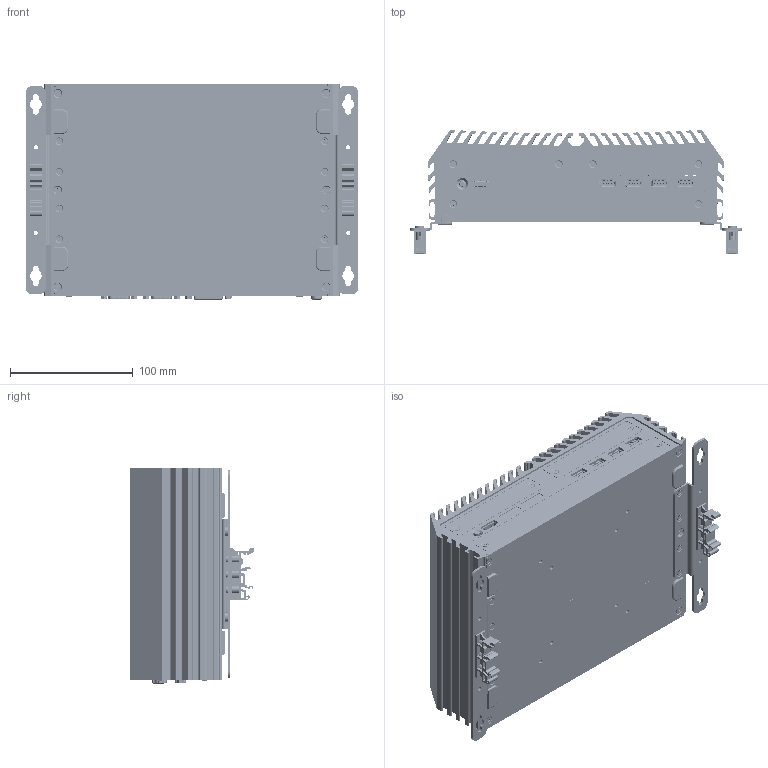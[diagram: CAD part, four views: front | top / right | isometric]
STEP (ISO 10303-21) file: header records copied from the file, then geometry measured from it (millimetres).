
FILE_DESCRIPTION (( 'STEP AP203' ), '1' );
FILE_NAME ('DX-1200+Wall Mount+Din Rail_20230703.STEP', '2023-07-03T03:24:22', ( '' ), ( '' ), 'SwSTEP 2.0', 'SolidWorks 2014', '' );
FILE_SCHEMA (( 'CONFIG_CONTROL_DESIGN' ));
Length unit declared in the file: millimetre
Products named in the file (31): Top Cover(M1-408100006300); Symbol_Panel(M0-ZZZZ5C3003); Main Board; Audio Jack_雙層_T-A032134001(23-D0262300090); Bottom Cover(M1-408100011100); Wall Mount Bracket(M1-208100051200); Copper Stud_S38400B25N01(M3-COSD6L00000); D-SUB 9_雙層_D20H1P1PA112A111N2(23-D0101100181); Front Bezel(M1-408110024100); din rail-塑膠-町洋(M5-DINRZ790000); F頭_M3x5(T10)(120)_黑(M3-N103052230); Terminal Block_ECH350R-04P(23-D0341500040); Rear Bezel(M1-408100031200); din rail-塑膠-町洋(M5-DINRZ790000)-Screw-沙拉-90-十字-M3X10.5自攻_M3*4; F頭_M3X8(T10)(90)_黑(M3-N103082260); DVI-1-H-RISE(23-D0092300293); Front Matching Bezel(CNC)(M1-408100081220); DX-1200+Wall Mount+Din Rail_20230703; F頭_M3x18(T10)(120)+溝槽_黑(M3-1103182270); RJ45+USB3.0x2_三層_JFM38U1B_B313_4F(23-D0202300320); Small Matching Bezel(M1-408100081200); P頭_M5x8(十字)(太陽華司)(M3-SCREAB00002) ; DC_IN1_5EHDRM-03P_8(23-D0341500030); DP1_Displayport_(23-D0242300200); Hole_Plug,MHD-7(M4-RUBR0100000); USB3.0_SMT_122-0921NA0504(23-S0142300090); PWR_BTN_TC003; Top Cover; Rubber Foot(M4-RUFT0100001); WHDM-19FLBSDR; Terminal Block_ECH350R-02P(23-D0341500020)
Assembly tree (80 placements, depth 3):
  DX-1200+Wall Mount+Din Rail_20230703
    Top Cover(M1-408100006300)
      Top Cover
    Bottom Cover(M1-408100011100)
    Front Bezel(M1-408110024100)
    Rear Bezel(M1-408100031200)
    Front Matching Bezel(CNC)(M1-408100081220)
    Small Matching Bezel(M1-408100081200)  x4
    Main Board
      DP1_Displayport_(23-D0242300200)
      PWR_BTN_TC003
      Terminal Block_ECH350R-02P(23-D0341500020)
      Audio Jack_雙層_T-A032134001(23-D0262300090)
      D-SUB 9_雙層_D20H1P1PA112A111N2(23-D0101100181)  x2
      Terminal Block_ECH350R-04P(23-D0341500040)
      DVI-1-H-RISE(23-D0092300293)
      RJ45+USB3.0x2_三層_JFM38U1B_B313_4F(23-D0202300320)  x2
      DC_IN1_5EHDRM-03P_8(23-D0341500030)
      USB3.0_SMT_122-0921NA0504(23-S0142300090)  x4
      WHDM-19FLBSDR
    Copper Stud_S38400B25N01(M3-COSD6L00000)  x10
    F頭_M3x5(T10)(120)_黑(M3-N103052230)  x16
    F頭_M3X8(T10)(90)_黑(M3-N103082260)  x6
    F頭_M3x18(T10)(120)+溝槽_黑(M3-1103182270)  x2
    P頭_M5x8(十字)(太陽華司)(M3-SCREAB00002) 
    Hole_Plug,MHD-7(M4-RUBR0100000)  x3
    Rubber Foot(M4-RUFT0100001)  x4
    Symbol_Panel(M0-ZZZZ5C3003)
    Wall Mount Bracket(M1-208100051200)  x2
    din rail-塑膠-町洋(M5-DINRZ790000)  x2
    din rail-塑膠-町洋(M5-DINRZ790000)-Screw-沙拉-90-十字-M3X10.5自攻_M3*4  x6
Bounding box: 271 x 101.32 x 176 mm (x, y, z)
Volume: 810129.7 mm3; surface area: 539623.2 mm2
Topology: 117 solids, 288 shells, 26581 faces, 74632 edges, 48261 vertices
Faces by surface type: plane 16407, cylinder 7887, bspline 1506, cone 571, torus 207, sphere 3
Entity records: 573839 total; most frequent: CARTESIAN_POINT 164200, ORIENTED_EDGE 89690, DIRECTION 76599, EDGE_CURVE 44958, LINE 32061, VECTOR 32061, VERTEX_POINT 29133, AXIS2_PLACEMENT_3D 22269
